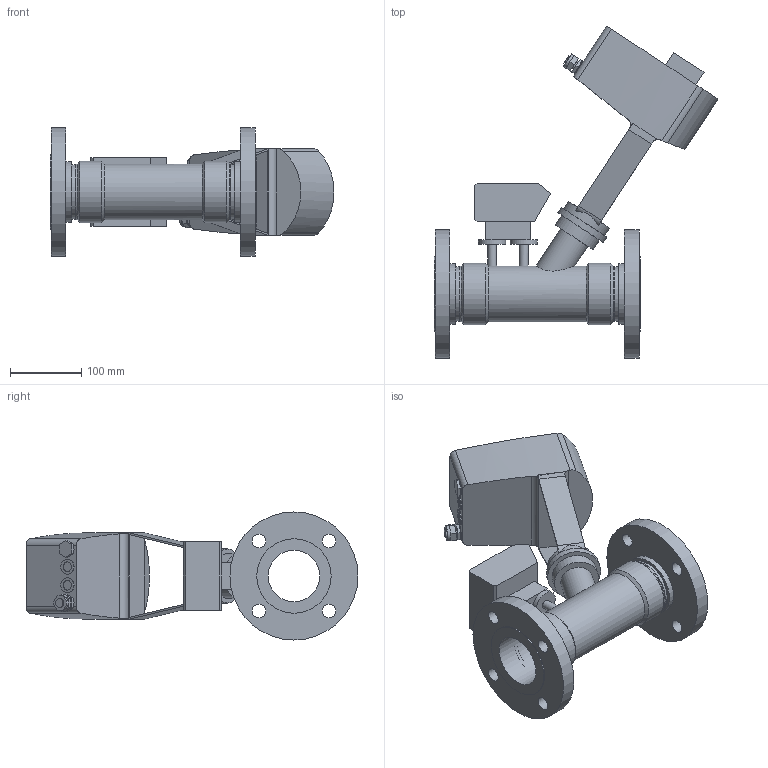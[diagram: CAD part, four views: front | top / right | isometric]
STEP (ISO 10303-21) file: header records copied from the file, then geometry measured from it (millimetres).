
FILE_DESCRIPTION(/* description */ ('VIC VALVE CONTROL TA SERIES 7SM (FLG)','CAx-IF Rec.Pracs.---Representation and Presentation of Product Manufacturing Information (PMI)---4.0---2014-10-13'),/* implementation_level */ '2;1');
FILE_NAME(/* name */ 'C:\Users\kkamble\AppData\Roaming\Autodesk\ApplicationPlugins\Victaulic.Temp\A306\Victaulic_IPS_Valve Control_TA Series 7SM (FLG)_2.5 (65).stp',/* time_stamp */ '2021-08-27T20:00:07+06:00',/* author */ ('kkamble'),/* organization */ ('Victaulic'),/* preprocessor_version */ 'ST-DEVELOPER v17.2',/* originating_system */ 'Autodesk Inventor 2019',/* authorisation */ '');
FILE_SCHEMA (('AP242_MANAGED_MODEL_BASED_3D_ENGINEERING_MIM_LF { 1 0 10303 442 1 1 4 }'));
Length unit declared in the file: inch
Products named in the file (3): 7SM-02.5; 7MP-02.5; TA-Slider_750_1250-01
Assembly tree (2 placements, depth 2):
  7SM-02.5
    7MP-02.5
    TA-Slider_750_1250-01
Bounding box: 399.34 x 466.98 x 180.09 mm (x, y, z)
Volume: 3899385.5 mm3; surface area: 447189.4 mm2
Topology: 2 solids, 2 shells, 184 faces, 475 edges, 317 vertices
Faces by surface type: plane 117, cylinder 63, cone 4
Full cylindrical faces by diameter (mm): 9.195 x6, 12.217 x1, 12.7 x2, 13.843 x5, 19.05 x8, 20.32 x1, 21.184 x5, 38.1 x2, 45.466 x1, 63.5 x1, 68.885 x1, 73.025 x1, 76.2 x3, 78.74 x5, 84.455 x2, 86.36 x2, 104.648 x2, 180.086 x2
Entity records: 6259 total; most frequent: CARTESIAN_POINT 1205, DIRECTION 1043, ORIENTED_EDGE 950, EDGE_CURVE 475, AXIS2_PLACEMENT_3D 398, VERTEX_POINT 317, LINE 247, VECTOR 247
